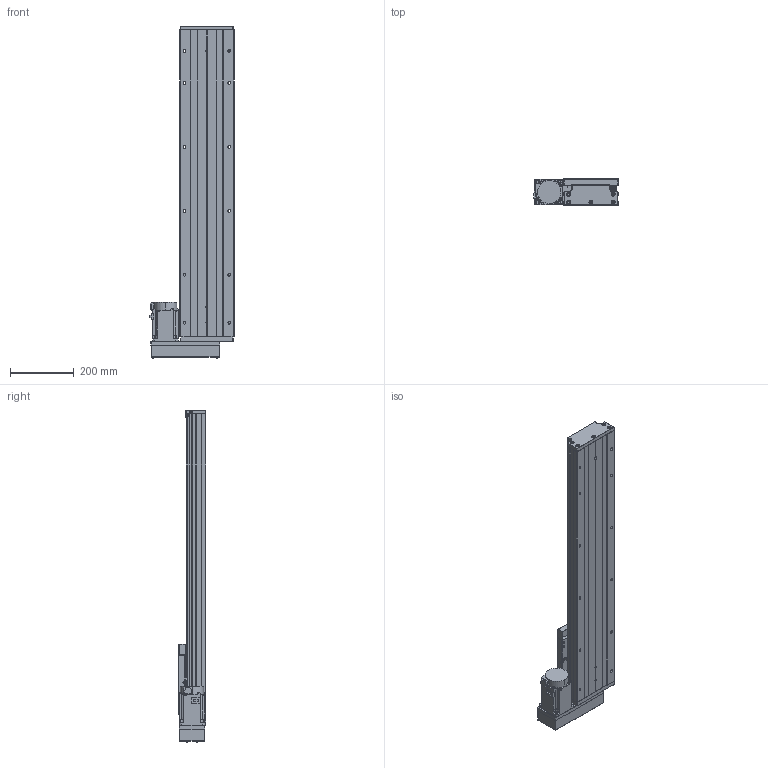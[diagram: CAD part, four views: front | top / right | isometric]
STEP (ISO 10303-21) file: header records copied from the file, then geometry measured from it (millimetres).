
FILE_DESCRIPTION (( 'STEP AP203' ), '1' );
FILE_NAME ('GTH17-700-BL-M75-C4.step', '2023-06-30T12:01:42', ( '微软用户' ), ( '微软中国' ), 'SwSTEP 2.0', 'SolidWorks 2020', '' );
FILE_SCHEMA (( 'CONFIG_CONTROL_DESIGN' ));
Length unit declared in the file: millimetre
Products named in the file (19): GTH17-005; GBT 70.1-M6¡Á20_M6¡Á20; GTH17-033; GB1155-6X6; GTH17-031; GTH17-700-BL-M75-C4; CTHA60-017; GBT 70.2-M3¡Á5_M3¡Á6; EE_SX911P_R; す晦芛蹟隊 M3℅5; GTH17-001_700; CTHA60-016; HG-KN73J-S100; GTH17-002_GTH17-002; GBT 70.1-M3℅5; GBT 70.2-M4¡Á45_M4¡Á35; GTH17-004; GBT77-2000 M3×3; GTH17-015-2_CTHA86-015-2
Assembly tree (58 placements, depth 2):
  GTH17-700-BL-M75-C4
    GTH17-001_700
    GTH17-002_GTH17-002
    GTH17-004
    GTH17-005
    GB1155-6X6  x2
    CTHA60-017  x3
    EE_SX911P_R  x3
    CTHA60-016  x2
    GBT 70.1-M3℅5  x6
    GBT77-2000 M3×3  x6
    GBT 70.1-M6¡Á20_M6¡Á20  x10
    GTH17-031
    GBT 70.2-M3¡Á5_M3¡Á6  x8
    す晦芛蹟隊 M3℅5  x6
    HG-KN73J-S100
    GBT 70.2-M4¡Á45_M4¡Á35  x4
    GTH17-015-2_CTHA86-015-2
    GTH17-033
Bounding box: 264.3 x 87 x 1038.2 mm (x, y, z)
Volume: 8704960.5 mm3; surface area: 1219205.7 mm2
Topology: 61 solids, 61 shells, 2449 faces, 5845 edges, 3619 vertices
Faces by surface type: plane 1310, cylinder 666, cone 297, torus 124, sphere 32, bspline 20
Entity records: 44738 total; most frequent: CARTESIAN_POINT 10366, DIRECTION 6481, ORIENTED_EDGE 6402, EDGE_CURVE 3201, AXIS2_PLACEMENT_3D 2212, VECTOR 2057, LINE 2057, VERTEX_POINT 2031
